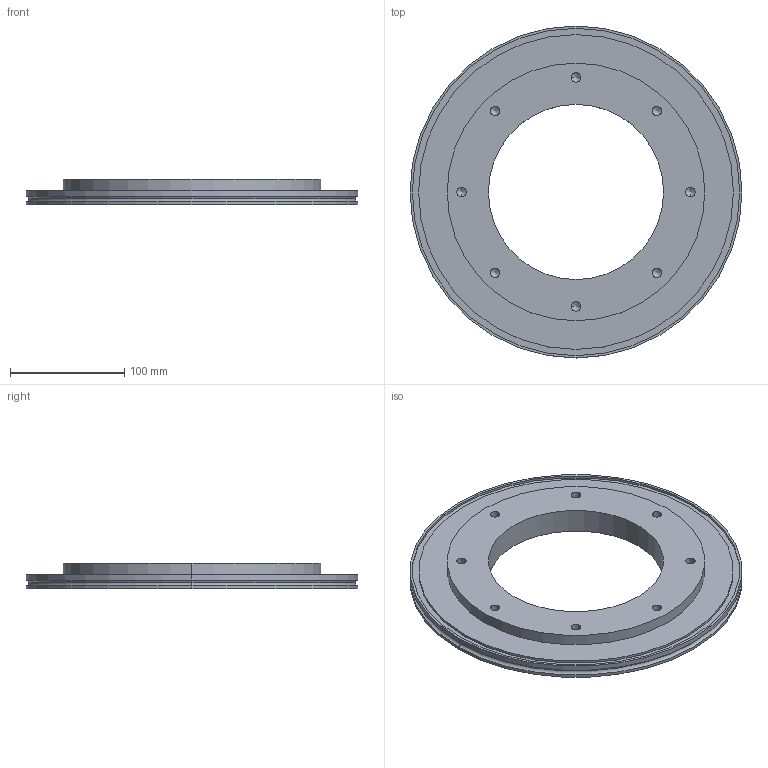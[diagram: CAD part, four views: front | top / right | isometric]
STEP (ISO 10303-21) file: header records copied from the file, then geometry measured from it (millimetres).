
FILE_DESCRIPTION((''),'2;1');
FILE_NAME('W:\212-159.stp','2004-01-08T10:19:34',('KAA'),(''),'Autodesk Inventor (R) 6.0','Autodesk Inventor (R) 6.0','');
FILE_SCHEMA(('CONFIG_CONTROL_DESIGN'));
Length unit declared in the file: millimetre
Products named in the file (1): 212-159
Bounding box: 290 x 290 x 22 mm (x, y, z)
Volume: 741663 mm3; surface area: 140635.2 mm2
Topology: 1 solids, 1 shells, 59 faces, 134 edges, 74 vertices
Faces by surface type: bspline 32, cylinder 16, plane 7, torus 4
Entity records: 2065 total; most frequent: CARTESIAN_POINT 796, DIRECTION 244, ORIENTED_EDGE 236, EDGE_CURVE 118, AXIS2_PLACEMENT_3D 98, VERTEX_POINT 74, EDGE_LOOP 74, CIRCLE 70
